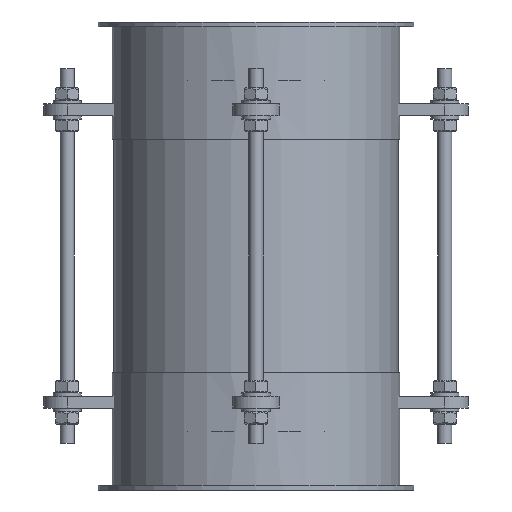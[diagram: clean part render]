
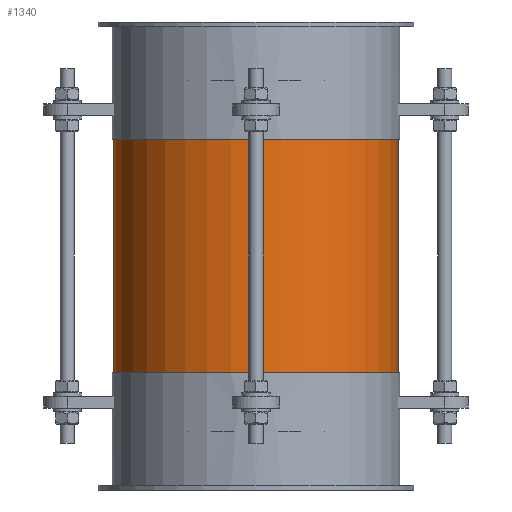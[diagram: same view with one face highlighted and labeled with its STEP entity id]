
A CAD part, front view. The second image highlights one B-rep face of the part: STEP entity #1340.
In plain terms, the highlighted cylindrical face has radius 60.75 mm (diameter 121.5 mm), a full revolution.
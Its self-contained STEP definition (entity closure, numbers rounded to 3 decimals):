
#1313=CARTESIAN_POINT('',(0.0,0.0,0.0));
#1314=DIRECTION('',(0.0,0.0,1.0));
#1315=DIRECTION('',(-1.0,0.0,0.0));
#1316=AXIS2_PLACEMENT_3D('',#1313,#1314,#1315);
#1317=CYLINDRICAL_SURFACE('',#1316,60.75);
#1318=CARTESIAN_POINT('',(60.75,0.,150.0));
#1319=VERTEX_POINT('',#1318);
#1320=CARTESIAN_POINT('',(0.0,0.0,150.0));
#1321=DIRECTION('',(0.0,0.0,-1.0));
#1322=DIRECTION('',(-1.0,0.0,0.0));
#1323=AXIS2_PLACEMENT_3D('',#1320,#1321,#1322);
#1324=CIRCLE('',#1323,60.75);
#1325=EDGE_CURVE('',#1319,#1319,#1324,.T.);
#1326=ORIENTED_EDGE('',*,*,#1325,.T.);
#1327=EDGE_LOOP('',(#1326));
#1328=FACE_OUTER_BOUND('',#1327,.T.);
#1329=CARTESIAN_POINT('',(60.75,0.,0.0));
#1330=VERTEX_POINT('',#1329);
#1331=CARTESIAN_POINT('',(0.0,0.0,0.0));
#1332=DIRECTION('',(0.0,0.0,-1.0));
#1333=DIRECTION('',(-1.0,0.0,0.0));
#1334=AXIS2_PLACEMENT_3D('',#1331,#1332,#1333);
#1335=CIRCLE('',#1334,60.75);
#1336=EDGE_CURVE('',#1330,#1330,#1335,.T.);
#1337=ORIENTED_EDGE('',*,*,#1336,.F.);
#1338=EDGE_LOOP('',(#1337));
#1339=FACE_BOUND('',#1338,.T.);
#1340=ADVANCED_FACE('',(#1328,#1339),#1317,.T.);
